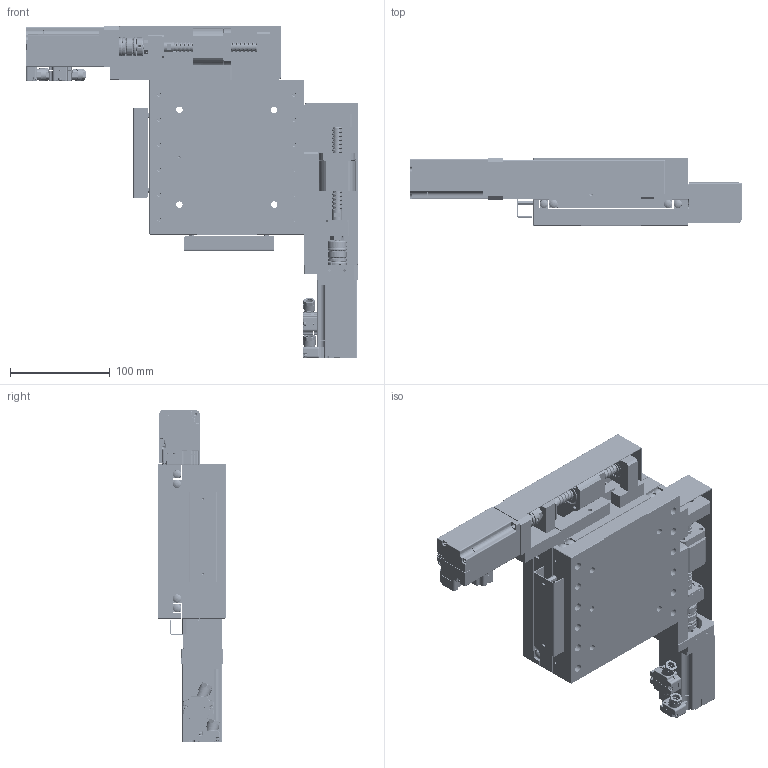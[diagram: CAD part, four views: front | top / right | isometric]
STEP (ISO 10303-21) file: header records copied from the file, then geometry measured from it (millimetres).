
FILE_DESCRIPTION (( 'STEP AP214' ), '1' );
FILE_NAME ('TYA15540-L4-S10.STEP', '2025-01-03T08:03:39', ( '' ), ( '' ), 'SwSTEP 2.0', 'SolidWorks 2020', '' );
FILE_SCHEMA (( 'AUTOMOTIVE_DESIGN' ));
Length unit declared in the file: millimetre
Products named in the file (3): MS1H1-10B30CB-(x)330Z; 勤弇耀郪TXY155-S10L3-UP-A; TYA15540-L4-S10
Assembly tree (3 placements, depth 2):
  TYA15540-L4-S10
    勤弇耀郪TXY155-S10L3-UP-A
    MS1H1-10B30CB-(x)330Z  x2
Bounding box: 332.7 x 68 x 332.7 mm (x, y, z)
Volume: 1861256.5 mm3; surface area: 512275.4 mm2
Topology: 45 solids, 106 shells, 7172 faces, 19004 edges, 12114 vertices
Faces by surface type: plane 3295, cylinder 2416, cone 744, bspline 511, torus 192, sphere 14
Entity records: 314393 total; most frequent: CARTESIAN_POINT 120659, ORIENTED_EDGE 28226, DIRECTION 27007, EDGE_CURVE 14117, AXIS2_PLACEMENT_3D 9984, VERTEX_POINT 9167, LINE 7039, VECTOR 7039
